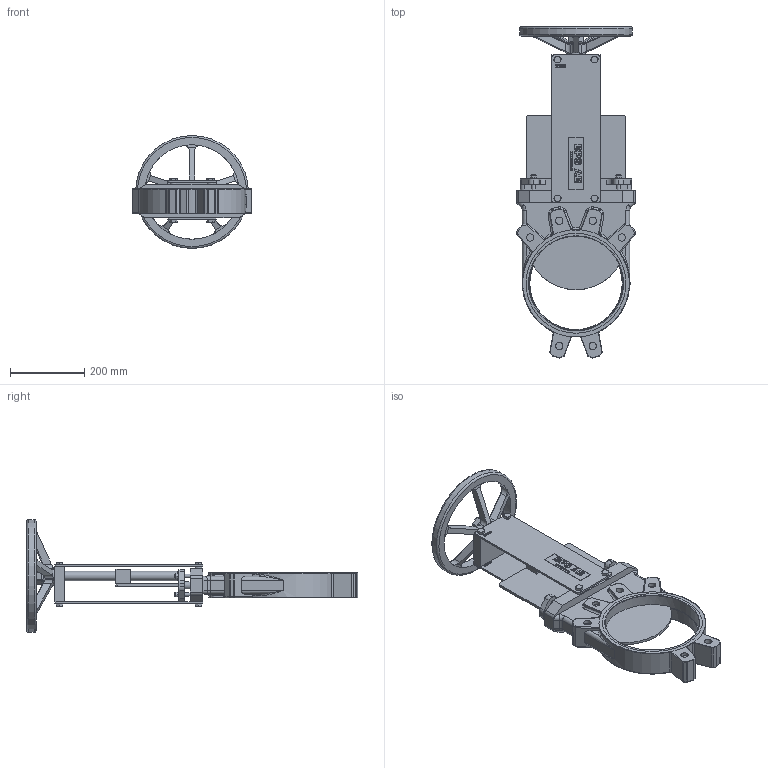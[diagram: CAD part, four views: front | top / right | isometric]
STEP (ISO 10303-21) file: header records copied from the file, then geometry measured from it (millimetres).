
FILE_DESCRIPTION((''),'2;1');
FILE_NAME('Z:\Kunder\BPS\BPS Produkter\BPS 2015\DN 250\Ritningar\BPS 2015250.stp','2012-12-28T10:57:14',('James'),(''),'Autodesk Inventor 2013','Autodesk Inventor 2013','');
FILE_SCHEMA(('AUTOMOTIVE_DESIGN { 1 2 10303 214 0 1 1 1 }'));
Length unit declared in the file: millimetre
Products named in the file (2): BPS 2015250 (SubstituteLevelofDetail1); BPS 2015250
Assembly tree (1 placements, depth 2):
  BPS 2015250 (SubstituteLevelofDetail1)
    BPS 2015250
Bounding box: 321.34 x 896.76 x 305 mm (x, y, z)
Volume: 6695379.4 mm3; surface area: 900876.8 mm2
Topology: 2 solids, 14 shells, 1367 faces, 3326 edges, 2083 vertices
Faces by surface type: plane 630, cylinder 305, bspline 260, torus 83, cone 53, sphere 36
Full cylindrical faces by diameter (mm): 8 x2, 10 x12, 12 x8, 13 x8, 16.63 x8, 20 x14, 25 x3, 50 x1, 250 x1, 255 x2, 305 x1
Entity records: 48680 total; most frequent: CARTESIAN_POINT 17111, ORIENTED_EDGE 6438, DIRECTION 5662, EDGE_CURVE 3219, VERTEX_POINT 2059, AXIS2_PLACEMENT_3D 1961, VECTOR 1740, LINE 1740
